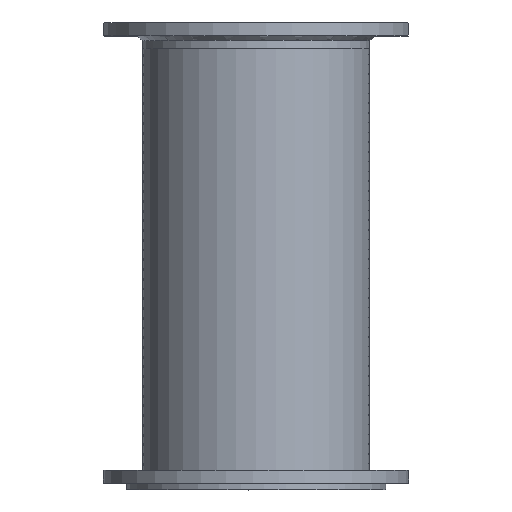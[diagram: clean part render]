
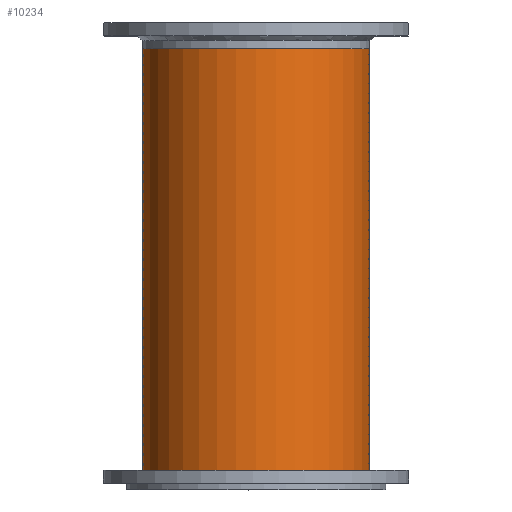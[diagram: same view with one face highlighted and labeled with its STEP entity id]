
A CAD part, top view. The second image highlights one B-rep face of the part: STEP entity #10234.
In plain terms, the highlighted cylindrical face has radius 221.615 mm (diameter 443.23 mm), a full revolution.
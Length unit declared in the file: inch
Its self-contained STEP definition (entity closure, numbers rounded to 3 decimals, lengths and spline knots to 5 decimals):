
#10207=CARTESIAN_POINT('',(0.0,0.0,0.0));
#10208=DIRECTION('',(0.0,0.0,1.0));
#10209=DIRECTION('',(-1.0,0.0,0.0));
#10210=AXIS2_PLACEMENT_3D('',#10207,#10208,#10209);
#10211=CYLINDRICAL_SURFACE('',#10210,8.725);
#10212=CARTESIAN_POINT('',(8.725,0.,34.5));
#10213=VERTEX_POINT('',#10212);
#10214=CARTESIAN_POINT('',(0.0,0.0,34.5));
#10215=DIRECTION('',(0.0,0.0,-1.0));
#10216=DIRECTION('',(-1.0,0.0,0.0));
#10217=AXIS2_PLACEMENT_3D('',#10214,#10215,#10216);
#10218=CIRCLE('',#10217,8.725);
#10219=EDGE_CURVE('',#10213,#10213,#10218,.T.);
#10220=ORIENTED_EDGE('',*,*,#10219,.T.);
#10221=EDGE_LOOP('',(#10220));
#10222=FACE_OUTER_BOUND('',#10221,.T.);
#10223=CARTESIAN_POINT('',(8.725,0.,0.0));
#10224=VERTEX_POINT('',#10223);
#10225=CARTESIAN_POINT('',(0.0,0.0,0.0));
#10226=DIRECTION('',(0.0,0.0,-1.0));
#10227=DIRECTION('',(-1.0,0.0,0.0));
#10228=AXIS2_PLACEMENT_3D('',#10225,#10226,#10227);
#10229=CIRCLE('',#10228,8.725);
#10230=EDGE_CURVE('',#10224,#10224,#10229,.T.);
#10231=ORIENTED_EDGE('',*,*,#10230,.F.);
#10232=EDGE_LOOP('',(#10231));
#10233=FACE_BOUND('',#10232,.T.);
#10234=ADVANCED_FACE('',(#10222,#10233),#10211,.T.);
